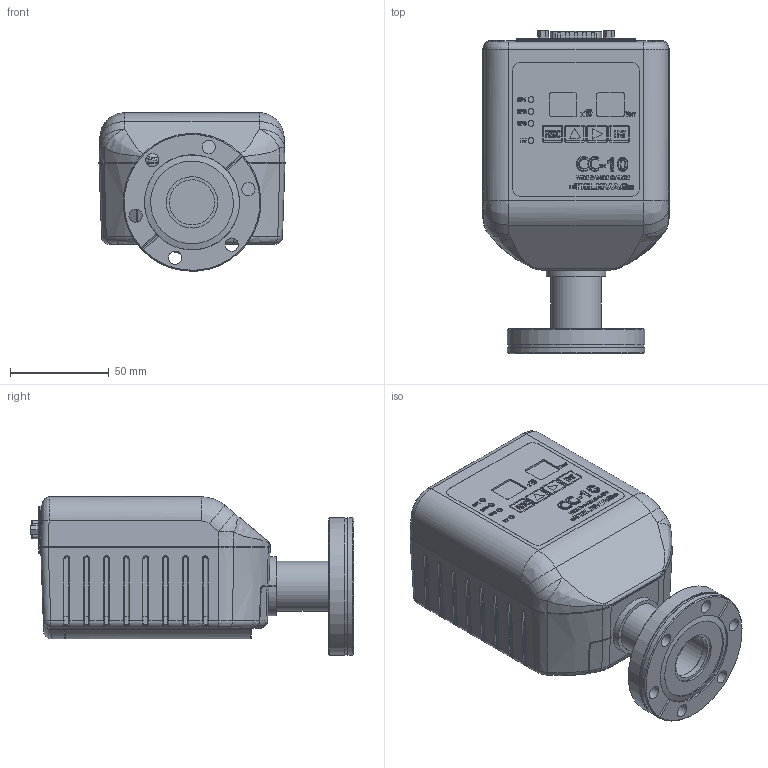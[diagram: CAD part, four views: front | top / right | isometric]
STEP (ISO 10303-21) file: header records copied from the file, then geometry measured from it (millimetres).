
FILE_DESCRIPTION (( 'STEP AP214' ), '1' );
FILE_NAME ('2-7980-052 (CC-10_CF40).STEP', '2023-06-15T16:57:30', ( '' ), ( '' ), 'SwSTEP 2.0', 'SolidWorks 2022', '' );
FILE_SCHEMA (( 'AUTOMOTIVE_DESIGN' ));
Length unit declared in the file: inch
Products named in the file (1): 2-7980-052 (CC-10_CF40)
Bounding box: 94.28 x 163.99 x 80.27 mm (x, y, z)
Volume: 713501.1 mm3; surface area: 74592.6 mm2
Topology: 9 solids, 9 shells, 1961 faces, 5041 edges, 3254 vertices
Faces by surface type: plane 936, cylinder 505, bspline 355, torus 97, cone 58, sphere 10
Full cylindrical faces by diameter (mm): 2.845 x14, 3 x4, 5.359 x2, 6 x2, 6.731 x6, 22.86 x1, 23.622 x2, 25.4 x2, 26.035 x1, 31.75 x1, 41.91 x2, 48.133 x1, 48.26 x1, 68.834 x1, 69.85 x2
Entity records: 121851 total; most frequent: CARTESIAN_POINT 52464, ORIENTED_EDGE 9842, DIRECTION 7765, EDGE_CURVE 4921, VERTEX_POINT 3205, LINE 2831, VECTOR 2831, AXIS2_PLACEMENT_3D 2467
